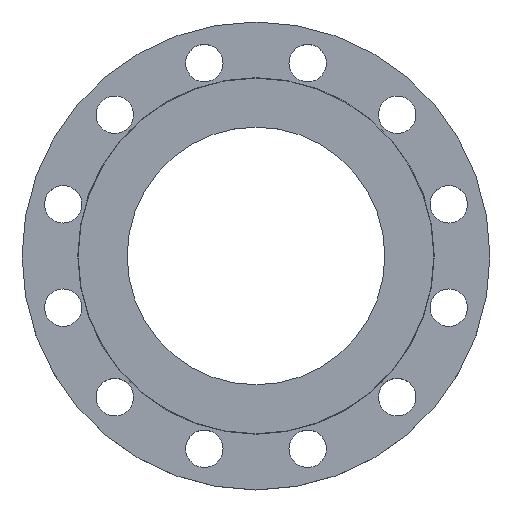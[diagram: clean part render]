
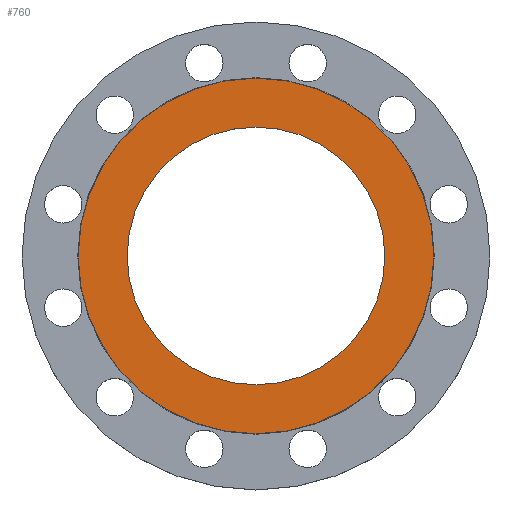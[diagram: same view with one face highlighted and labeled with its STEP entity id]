
A CAD part, top view. The second image highlights one B-rep face of the part: STEP entity #760.
In plain terms, the highlighted planar face has unit normal (0, 0, 1).
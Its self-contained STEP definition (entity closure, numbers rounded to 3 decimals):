
#5 = AXIS2_PLACEMENT_3D ( 'NONE', #732, #1073, #146 ) ;
#57 = ORIENTED_EDGE ( 'NONE', *, *, #569, .F. ) ;
#76 = AXIS2_PLACEMENT_3D ( 'NONE', #1190, #309, #787 ) ;
#96 = DIRECTION ( 'NONE',  ( 0., 0., -1. ) ) ;
#146 = DIRECTION ( 'NONE',  ( 1., 0., 0. ) ) ;
#158 = AXIS2_PLACEMENT_3D ( 'NONE', #423, #862, #1171 ) ;
#176 = VERTEX_POINT ( 'NONE', #960 ) ;
#180 = DIRECTION ( 'NONE',  ( 0., 0., 1. ) ) ;
#236 = PLANE ( 'NONE',  #5 ) ;
#288 = CIRCLE ( 'NONE', #473, 103.25 ) ;
#309 = DIRECTION ( 'NONE',  ( 0., 0., 1. ) ) ;
#332 = EDGE_LOOP ( 'NONE', ( #531, #1227 ) ) ;
#336 = EDGE_LOOP ( 'NONE', ( #1005, #57 ) ) ;
#347 = CARTESIAN_POINT ( 'NONE',  ( -142.5, 0., 0. ) ) ;
#375 = CIRCLE ( 'NONE', #665, 142.5 ) ;
#423 = CARTESIAN_POINT ( 'NONE',  ( 0., 0., 0. ) ) ;
#454 = VERTEX_POINT ( 'NONE', #1168 ) ;
#473 = AXIS2_PLACEMENT_3D ( 'NONE', #1100, #180, #666 ) ;
#494 = CIRCLE ( 'NONE', #158, 142.5 ) ;
#500 = EDGE_CURVE ( 'NONE', #176, #1261, #288, .T. ) ;
#528 = EDGE_CURVE ( 'NONE', #690, #454, #375, .T. ) ;
#531 = ORIENTED_EDGE ( 'NONE', *, *, #528, .F. ) ;
#569 = EDGE_CURVE ( 'NONE', #1261, #176, #711, .T. ) ;
#571 = DIRECTION ( 'NONE',  ( -1., 0., 0. ) ) ;
#665 = AXIS2_PLACEMENT_3D ( 'NONE', #1037, #96, #571 ) ;
#666 = DIRECTION ( 'NONE',  ( 1., 0., 0. ) ) ;
#690 = VERTEX_POINT ( 'NONE', #347 ) ;
#711 = CIRCLE ( 'NONE', #76, 103.25 ) ;
#732 = CARTESIAN_POINT ( 'NONE',  ( 0., 0., 0. ) ) ;
#760 = ADVANCED_FACE ( 'NONE', ( #825, #1149 ), #236, .T. ) ;
#787 = DIRECTION ( 'NONE',  ( 1., 0., 0. ) ) ;
#825 = FACE_BOUND ( 'NONE', #336, .T. ) ;
#862 = DIRECTION ( 'NONE',  ( 0., 0., -1. ) ) ;
#952 = EDGE_CURVE ( 'NONE', #454, #690, #494, .T. ) ;
#960 = CARTESIAN_POINT ( 'NONE',  ( 103.25, 0., 0. ) ) ;
#1005 = ORIENTED_EDGE ( 'NONE', *, *, #500, .F. ) ;
#1037 = CARTESIAN_POINT ( 'NONE',  ( 0., 0., 0. ) ) ;
#1073 = DIRECTION ( 'NONE',  ( 0., 0., 1. ) ) ;
#1100 = CARTESIAN_POINT ( 'NONE',  ( 0., 0., 0. ) ) ;
#1149 = FACE_OUTER_BOUND ( 'NONE', #332, .T. ) ;
#1165 = CARTESIAN_POINT ( 'NONE',  ( -103.25, 0., 0. ) ) ;
#1168 = CARTESIAN_POINT ( 'NONE',  ( 142.5, 0., 0. ) ) ;
#1171 = DIRECTION ( 'NONE',  ( -1., 0., 0. ) ) ;
#1190 = CARTESIAN_POINT ( 'NONE',  ( 0., 0., 0. ) ) ;
#1227 = ORIENTED_EDGE ( 'NONE', *, *, #952, .F. ) ;
#1261 = VERTEX_POINT ( 'NONE', #1165 ) ;
